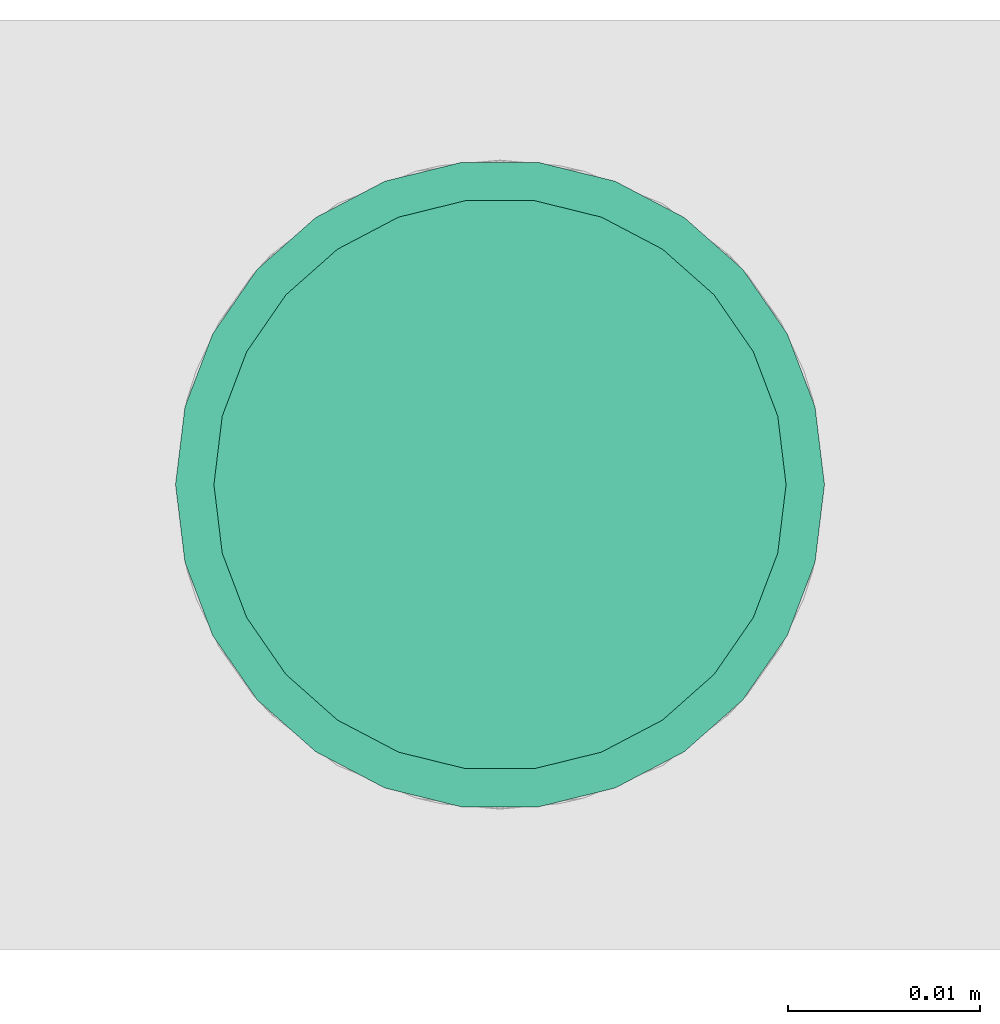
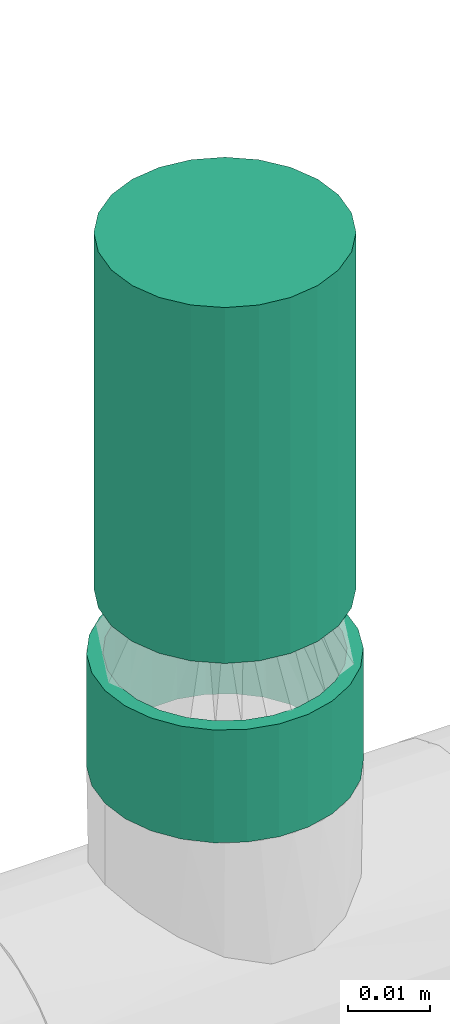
# One storey, part 8 of 14: 1 flow segment, 1 flow terminal.
"""IFC2X3 building model written with IfcOpenShell, lengths in millimetres."""

from ifc_helpers import new_model, entity, si_unit, converted_unit, derived_unit, direction, frame, origin_with_axes, origin_2d_with_axis, place, context, subcontext, project, spatial, hollow_circle, extrude, open_shell, surface_model, source, transform, mapped, type_object, element, save


model = new_model("IFC2X3")

# Units and contexts
model_context = context("Model", 3, precision=0.01, world=frame((0.0, 4.29681676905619e-09, 0.0)), true_north=direction((4.01073788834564e-13, 1.0)))
plan_context = context("Plan", 3, precision=0.01, world=frame((0.0, 4.29681676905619e-09, 0.0)), true_north=direction((4.01073788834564e-13, 1.0)))
body_context = subcontext(model_context, "Body", "Model", "MODEL_VIEW")
ifc_project = project(units=[converted_unit("PLANEANGLEUNIT", "DEGREE", entity("IfcPositiveLengthMeasure", 0.0174532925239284), si_unit("PLANEANGLEUNIT", "RADIAN"), dimensions=[0, 0, 0, 0, 0, 0, 0]), si_unit("AREAUNIT", "SQUARE_METRE"), si_unit("LENGTHUNIT", "METRE", prefix="MILLI"), si_unit("MASSUNIT", "GRAM", prefix="KILO"), si_unit("POWERUNIT", "WATT"), si_unit("PRESSUREUNIT", "PASCAL", prefix="KILO"), si_unit("FORCEUNIT", "NEWTON", prefix="KILO"), si_unit("ELECTRICVOLTAGEUNIT", "VOLT"), si_unit("ELECTRICCURRENTUNIT", "AMPERE"), si_unit("THERMODYNAMICTEMPERATUREUNIT", "DEGREE_CELSIUS"), si_unit("TIMEUNIT", "SECOND"), si_unit("VOLUMEUNIT", "CUBIC_METRE"), derived_unit("LINEARVELOCITYUNIT", [(si_unit("LENGTHUNIT", "METRE"), 1), (si_unit("TIMEUNIT", "SECOND"), -1)]), derived_unit("VOLUMETRICFLOWRATEUNIT", [(si_unit("VOLUMEUNIT", "CUBIC_METRE"), 1), (si_unit("TIMEUNIT", "SECOND"), -1)]), derived_unit("THERMALTRANSMITTANCEUNIT", [(si_unit("POWERUNIT", "WATT"), 1), (si_unit("THERMODYNAMICTEMPERATUREUNIT", "KELVIN"), -1), (si_unit("AREAUNIT", "SQUARE_METRE"), -1)]), derived_unit("SOUNDPRESSUREUNIT", [(si_unit("PRESSUREUNIT", "PASCAL"), 1)])], contexts=[model_context, plan_context])

# Site, building, storey
site_placement = place(None, frame((0.0, -4.29681676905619e-09, 0.0), z_axis=(0.0, 0.0, 1.0), x_axis=(1.0, 0.0, 0.0)))
site = spatial("IfcSite", under=ifc_project, at=site_placement, CompositionType="ELEMENT")
building_placement = place(site_placement, frame((0.0, 4.29681676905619e-09, 0.0), z_axis=(0.0, 0.0, 1.0), x_axis=(1.0, 0.0, 0.0)))
building = spatial("IfcBuilding", under=site, at=building_placement, Name="mc-building", CompositionType="ELEMENT")
storey_placement = place(building_placement, frame((0.0, 0.0, 204000.0), z_axis=(0.0, 0.0, 1.0), x_axis=(1.0, 0.0, 0.0)))
storey = spatial("IfcBuildingStorey", under=building, at=storey_placement, Name="Nivå D", CompositionType="ELEMENT", Elevation=204000.0)

# Flow segment
pipe_segment_type = type_object("IfcPipeSegmentType", Name="Stålrør normaltykke", PredefinedType="RIGIDSEGMENT")
shared_shape_1 = source(origin_with_axes(), body_context, "Body", "SweptSolid", [
    extrude(hollow_circle(Radius=16.9, WallThickness=2.0, at=origin_2d_with_axis()), frame((0.0, 0.0, 0.0), z_axis=(1.0, 0.0, 0.0), x_axis=(0.0, 1.0, 0.0)), (0.0, 0.0, 1.0), 16.8),
])
flow_segment_placement = place(storey_placement, frame((601060.0, 576802.46783, 6091.88091000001), z_axis=(0.0, 1.0, 0.0), x_axis=(0.0, 0.0, 1.0)))
element("IfcFlowSegment", 1, at=flow_segment_placement, inside=storey, type_object=pipe_segment_type, Name="Stålrør normaltykke", context=body_context, shape_type="MappedRepresentation", body=[
    mapped(shared_shape_1, transform((0.0, 0.0, 0.0), scale=1.0)),
])

# Flow terminal
fire_suppression_terminal_type = type_object("IfcFireSuppressionTerminalType", Name="SP-15-K80-68DGR-STD-STÅENDE", PredefinedType="NOTDEFINED")
shared_shape_2 = source(origin_with_axes(), body_context, "Body", "SurfaceModel", [
    surface_model("IfcShellBasedSurfaceModel", [(4.1411, -15.45481, 53.0), (8.0, -13.85641, 53.0), (11.31371, -11.31371, 53.0), (-8.0, -13.85641, 53.0), (15.45481, -4.1411, 53.0), (16.0, 0.0, 53.0), (13.85641, -8.0, 53.0), (0.0, -16.0, 53.0), (-4.1411, -15.45481, 53.0), (-13.85641, -8.0, 53.0), (-11.31371, -11.31371, 53.0), (-15.45481, -4.1411, 53.0), (15.45481, 4.1411, 53.0), (13.85641, 8.0, 53.0), (11.31371, 11.31371, 53.0), (-4.1411, 15.45481, 53.0), (8.0, 13.85641, 53.0), (4.1411, 15.45481, 53.0), (0.0, 16.0, 53.0), (-13.85641, 8.0, 53.0), (-15.45481, 4.1411, 53.0), (-16.0, 0.0, 53.0), (-11.31371, 11.31371, 53.0), (-8.0, 13.85641, 53.0), (0.0, 16.0, 0.0), (4.1411, 15.45481, 0.0), (8.0, 13.85641, 0.0), (-4.1411, 15.45481, 0.0), (11.31371, 11.31371, 0.0), (13.85641, 8.0, 0.0), (15.45481, 4.1411, 0.0), (-15.45481, -4.1411, 0.0), (-11.31371, 11.31371, 0.0), (-8.0, 13.85641, 0.0), (-13.85641, 8.0, 0.0), (-15.45481, 4.1411, 0.0), (-16.0, 0.0, 0.0), (4.1411, -15.45481, 0.0), (16.0, 0.0, 0.0), (15.45481, -4.1411, 0.0), (13.85641, -8.0, 0.0), (11.31371, -11.31371, 0.0), (8.0, -13.85641, 0.0), (-8.0, -13.85641, 0.0), (-13.85641, -8.0, 0.0), (-11.31371, -11.31371, 0.0), (0.0, -16.0, 0.0), (-4.1411, -15.45481, 0.0)], [open_shell([[[0, 1, 2]], [[3, 0, 2]], [[4, 5, 2]], [[4, 2, 6]], [[3, 2, 5]], [[7, 3, 8]], [[7, 0, 3]], [[3, 9, 10]], [[9, 3, 11]], [[5, 11, 3]], [[5, 12, 11]], [[12, 13, 14]], [[15, 12, 14]], [[16, 17, 18]], [[14, 16, 15]], [[18, 15, 16]], [[11, 19, 20]], [[21, 11, 20]], [[22, 15, 23]], [[15, 22, 19]], [[19, 11, 15]], [[11, 12, 15]], [[24, 25, 26]], [[27, 24, 26]], [[28, 29, 30]], [[27, 26, 28]], [[27, 28, 31]], [[27, 32, 33]], [[32, 27, 34]], [[34, 31, 35]], [[31, 34, 27]], [[35, 31, 36]], [[28, 30, 31]], [[37, 38, 39]], [[37, 39, 40]], [[41, 42, 37]], [[41, 37, 40]], [[38, 37, 43]], [[44, 43, 45]], [[43, 44, 31]], [[43, 46, 47]], [[43, 31, 38]], [[37, 46, 43]], [[38, 31, 30]], [[11, 31, 44]], [[45, 9, 44]], [[3, 43, 47]], [[45, 43, 10]], [[8, 47, 46]], [[31, 21, 36]], [[31, 11, 21]], [[44, 9, 11]], [[45, 10, 9]], [[3, 10, 43]], [[47, 8, 3]], [[46, 7, 8]], [[0, 37, 42]], [[41, 1, 42]], [[6, 40, 39]], [[41, 40, 2]], [[4, 39, 38]], [[37, 0, 7]], [[42, 1, 0]], [[41, 2, 1]], [[40, 6, 2]], [[4, 6, 39]], [[38, 5, 4]], [[37, 7, 46]], [[12, 38, 30]], [[13, 30, 29]], [[16, 26, 25]], [[17, 25, 24]], [[30, 13, 12]], [[12, 5, 38]], [[28, 14, 13]], [[28, 26, 14]], [[14, 26, 16]], [[25, 17, 16]], [[28, 13, 29]], [[24, 18, 17]], [[15, 27, 33]], [[32, 23, 33]], [[19, 34, 35]], [[32, 34, 22]], [[20, 35, 36]], [[27, 15, 18]], [[33, 23, 15]], [[32, 22, 23]], [[34, 19, 22]], [[20, 19, 35]], [[36, 21, 20]], [[27, 18, 24]]])]),
])
flow_terminal_placement = place(storey_placement, frame((601060.0, 576802.46783, 6118.0), z_axis=(0.0, 0.0, 1.0), x_axis=(1.0, 0.0, 0.0)))
element("IfcFlowTerminal", 2, at=flow_terminal_placement, inside=storey, type_object=fire_suppression_terminal_type, Name="SP-15-K80-68DGR-STD-STÅENDE", context=body_context, shape_type="MappedRepresentation", body=[
    mapped(shared_shape_2, transform((0.0, 0.0, 0.0), scale=1.0)),
])

save(model, "model.ifc")
